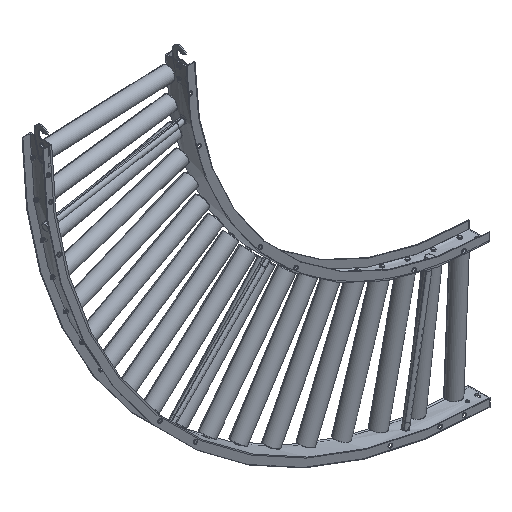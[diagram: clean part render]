
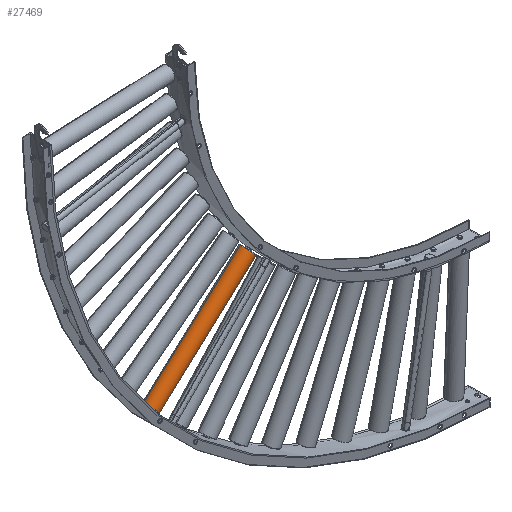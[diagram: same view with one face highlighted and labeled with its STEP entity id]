
A CAD part, isometric view. The second image highlights one B-rep face of the part: STEP entity #27469.
In plain terms, the highlighted cylindrical face has radius 21.25 mm (diameter 42.5 mm), a partial arc.
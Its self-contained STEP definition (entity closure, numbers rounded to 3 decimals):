
#3397 = VECTOR ( 'NONE', #39952, 1000. ) ;
#5724 = ORIENTED_EDGE ( 'NONE', *, *, #39161, .T. ) ;
#6706 = VERTEX_POINT ( 'NONE', #30545 ) ;
#7173 = EDGE_CURVE ( 'NONE', #6706, #34436, #38050, .T. ) ;
#7682 = LINE ( 'NONE', #26808, #3397 ) ;
#8701 = DIRECTION ( 'NONE',  ( -0.737, 0., -0.676 ) ) ;
#10743 = CARTESIAN_POINT ( 'NONE',  ( -574.87, 22.79, -646.528 ) ) ;
#13787 = DIRECTION ( 'NONE',  ( 0.602, -0.453, -0.657 ) ) ;
#13997 = DIRECTION ( 'NONE',  ( 0.737, 0., 0.676 ) ) ;
#14626 = VERTEX_POINT ( 'NONE', #16126 ) ;
#14699 = AXIS2_PLACEMENT_3D ( 'NONE', #21433, #25517, #22278 ) ;
#15677 = EDGE_CURVE ( 'NONE', #34436, #32423, #36369, .T. ) ;
#16126 = CARTESIAN_POINT ( 'NONE',  ( -294.145, 3.537, -440.681 ) ) ;
#16988 = DIRECTION ( 'NONE',  ( -0.737, 0., -0.676 ) ) ;
#17617 = AXIS2_PLACEMENT_3D ( 'NONE', #23698, #13997, #13787 ) ;
#18869 = AXIS2_PLACEMENT_3D ( 'NONE', #37751, #8701, #21812 ) ;
#19548 = ORIENTED_EDGE ( 'NONE', *, *, #24207, .F. ) ;
#19748 = VECTOR ( 'NONE', #16988, 1000. ) ;
#19752 = ORIENTED_EDGE ( 'NONE', *, *, #15677, .T. ) ;
#20417 = ORIENTED_EDGE ( 'NONE', *, *, #7173, .T. ) ;
#21433 = CARTESIAN_POINT ( 'NONE',  ( -20.88, 13.164, -164.585 ) ) ;
#21812 = DIRECTION ( 'NONE',  ( -0.602, 0.453, 0.657 ) ) ;
#22278 = DIRECTION ( 'NONE',  ( -0.602, 0.453, 0.657 ) ) ;
#22724 = CARTESIAN_POINT ( 'NONE',  ( -33.678, 22.79, -150.617 ) ) ;
#23698 = CARTESIAN_POINT ( 'NONE',  ( -306.943, 13.164, -426.714 ) ) ;
#24207 = EDGE_CURVE ( 'NONE', #6706, #14626, #7682, .T. ) ;
#25517 = DIRECTION ( 'NONE',  ( -0.737, 0., -0.676 ) ) ;
#26808 = CARTESIAN_POINT ( 'NONE',  ( -549.273, 3.537, -674.463 ) ) ;
#27303 = EDGE_LOOP ( 'NONE', ( #19548, #20417, #19752, #5724 ) ) ;
#27469 = ADVANCED_FACE ( 'NONE', ( #28265 ), #38173, .T. ) ;
#28265 = FACE_OUTER_BOUND ( 'NONE', #27303, .T. ) ;
#30545 = CARTESIAN_POINT ( 'NONE',  ( -8.081, 3.537, -178.552 ) ) ;
#31932 = CARTESIAN_POINT ( 'NONE',  ( -319.742, 22.79, -412.746 ) ) ;
#32423 = VERTEX_POINT ( 'NONE', #31932 ) ;
#34436 = VERTEX_POINT ( 'NONE', #22724 ) ;
#34814 = CIRCLE ( 'NONE', #17617, 21.25 ) ;
#36369 = LINE ( 'NONE', #10743, #19748 ) ;
#37751 = CARTESIAN_POINT ( 'NONE',  ( -562.071, 13.164, -660.496 ) ) ;
#38050 = CIRCLE ( 'NONE', #14699, 21.25 ) ;
#38173 = CYLINDRICAL_SURFACE ( 'NONE', #18869, 21.25 ) ;
#39161 = EDGE_CURVE ( 'NONE', #32423, #14626, #34814, .T. ) ;
#39952 = DIRECTION ( 'NONE',  ( -0.737, 0., -0.676 ) ) ;
